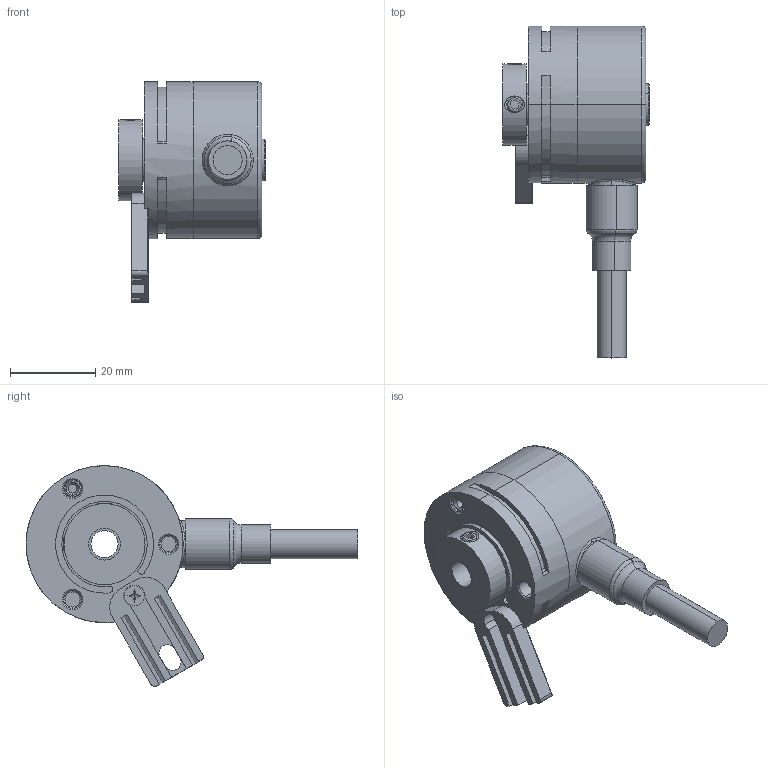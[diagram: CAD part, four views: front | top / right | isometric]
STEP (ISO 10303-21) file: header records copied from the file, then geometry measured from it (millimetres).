
FILE_DESCRIPTION (( 'STEP AP214' ), '1' );
FILE_NAME ('3720.24X1.XXXX.STEP', '2008-11-28T06:29:49', ( 'admin' ), ( 'Fritz Kübler GmbH' ), 'SwSTEP 2.0', 'SolidWorks 2008', '' );
FILE_SCHEMA (( 'AUTOMOTIVE_DESIGN' ));
Length unit declared in the file: millimetre
Products named in the file (1): 3720.24X1.XXXX
Bounding box: 34.3 x 77.8 x 51.76 mm (x, y, z)
Volume: 16962.1 mm3; surface area: 19857.4 mm2
Topology: 12 solids, 12 shells, 766 faces, 1888 edges, 1167 vertices
Faces by surface type: cylinder 282, plane 234, torus 90, bspline 77, cone 58, sphere 25
Entity records: 33933 total; most frequent: CARTESIAN_POINT 7789, DIRECTION 3768, ORIENTED_EDGE 3730, EDGE_CURVE 1865, AXIS2_PLACEMENT_3D 1544, VERTEX_POINT 1157, CIRCLE 854, EDGE_LOOP 824
